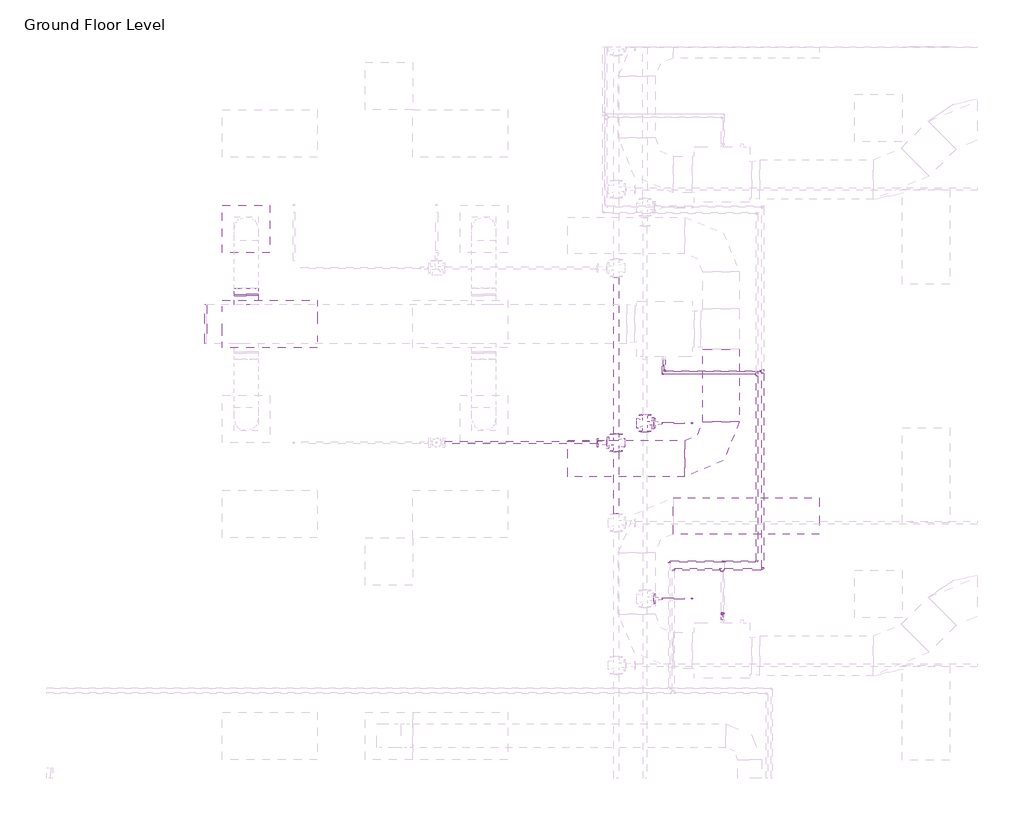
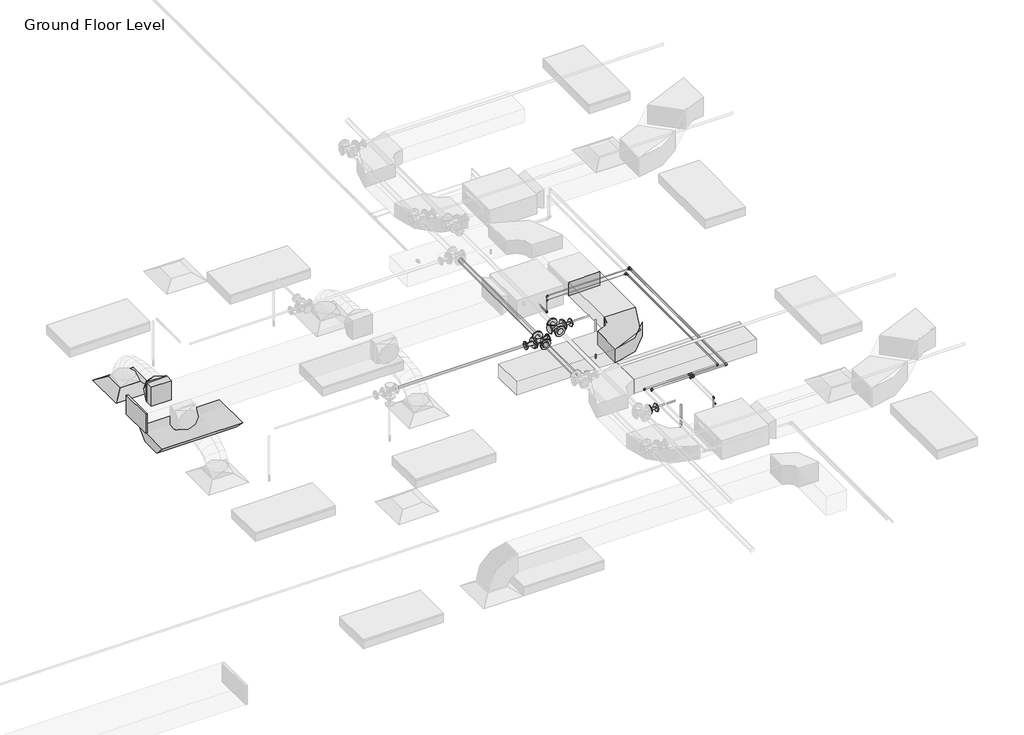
# One storey, part 60 of 73: 25 pipe fittings, 22 pipe segments, 5 duct fittings, 4 duct segments, 2 fire suppression terminals, 1 air terminal, 1 light fixture.
"""IFC4 building model written with IfcOpenShell, lengths in millimetres."""

from ifc_helpers import new_model, si_unit, point, frame, frame_2d, origin, place, context, project, spatial, polyline, circle_curve, trimmed, segment, composite_curve, outline, extrude, transform, mapped, element, save
from components import m_return_diffuser_600_x_600_face_300_x_300_connection_ff221211, m_rectangular_elbow_radius_1_w_0fa52825, m_rectangular_endcap_standard_72d4d00d, m_rectangular_takeoff_standard_2be5eba1, m_rectangular_transition_angle_45_degree_27e6000f, m_rectangular_to_round_transition_angle_45_degree_641efff0, m_sprinkler_pendent_15_mm_pendent_06fcbd8e, m_emergency_recessed_lighting_fixture_600x1200_277_5b10b25d, m_elbow_generic_standard_a088f956, m_elbow_generic_standard_2a704253, m_elbow_generic_standard_73005802, m_elbow_generic_standard_bb5ffebe, m_reducer_flanged_cs_class_150_standard_83138b42, m_reducer_flanged_cs_class_150_standard_5e9b2cee, m_tee_generic_standard_cdc1cff5, m_tee_generic_standard_bbfc025c, m_tee_round_base_flanged_cs_class_150_standard_dd767e04, m_tee_round_base_flanged_cs_class_150_standard_ab36f383, m_transition_generic_standard_e9aec4dd, m_transition_generic_standard_c2658a33

model = new_model("IFC4")

# Units and contexts
model_context = context("Model", 3, world=origin())
ifc_project = project(units=[si_unit("LENGTHUNIT", "METRE", prefix="MILLI")], contexts=[model_context])

# Site, building, storey
site = spatial("IfcSite", under=ifc_project)
building = spatial("IfcBuilding", under=site)
storey = spatial("IfcBuildingStorey", under=building, Name="Ground Floor Level", Elevation=900.0)

# Air terminal
placement = place(None, origin())
m_return_diffuser_600_x_600_face_300_x_300_connection_shape = m_return_diffuser_600_x_600_face_300_x_300_connection_ff221211(model_context)
element("IfcAirTerminal", 1, ObjectType="M_Supply Diffuser : 600 x 600 Face 300 x 300 Connection", at=placement, inside=storey, context=model_context, shape_type="MappedRepresentation", body=[
    mapped(m_return_diffuser_600_x_600_face_300_x_300_connection_shape, transform((962.7672395, 5335.2153534, 3650.0), x_axis=(1.0, 0.0, 0.0), y_axis=(0.0, 1.0, 0.0), z_axis=(0.0, 0.0, 1.0))),
])

# Duct fittings
m_rectangular_elbow_radius_1_w_shape = m_rectangular_elbow_radius_1_w_0fa52825(model_context)
element("IfcDuctFitting", 2, ObjectType="M_Rectangular Elbow - Radius : 1 W", at=placement, inside=storey, context=model_context, shape_type="MappedRepresentation", body=[
    mapped(m_rectangular_elbow_radius_1_w_shape, transform((6958.8139492, 2435.5824167, 4075.2875), x_axis=(1.0, 0.0, 0.0), y_axis=(0.0, 1.0, 0.0), z_axis=(0.0, 0.0, 1.0))),
])
m_rectangular_endcap_standard_shape = m_rectangular_endcap_standard_72d4d00d(model_context)
element("IfcDuctFitting", 3, ObjectType="M_Rectangular Endcap : Standard", at=placement, inside=storey, context=model_context, shape_type="MappedRepresentation", body=[
    mapped(m_rectangular_endcap_standard_shape, transform((468.0139492, 4135.0199167, 4099.9875), x_axis=(-0.9999999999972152, 0.0, -2.3600398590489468e-06), y_axis=(0.0, -1.0000000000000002, 0.0), z_axis=(-2.3600398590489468e-06, 0.0, 0.9999999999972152))),
])
m_rectangular_takeoff_standard_shape = m_rectangular_takeoff_standard_2be5eba1(model_context)
element("IfcDuctFitting", 4, ObjectType="M_Rectangular Takeoff : Standard", at=placement, inside=storey, context=model_context, shape_type="MappedRepresentation", body=[
    mapped(m_rectangular_takeoff_standard_shape, transform((962.7672395, 4385.0199167, 4099.9886676), x_axis=(0.0, 1.0, 0.0), y_axis=(1.0, 0.0, 0.0), z_axis=(0.0, 0.0, -1.0))),
])
m_rectangular_transition_angle_45_degree_shape = m_rectangular_transition_angle_45_degree_27e6000f(model_context)
element("IfcDuctFitting", 5, ObjectType="M_Rectangular Transition - Angle : 45 Degree", at=placement, inside=storey, context=model_context, shape_type="MappedRepresentation", body=[
    mapped(m_rectangular_transition_angle_45_degree_shape, transform((6958.8139492, 3815.5824167, 4075.2875), x_axis=(0.0, -1.0, 0.0), y_axis=(1.0, 0.0, 0.0), z_axis=(0.0, 0.0, 1.0))),
])
m_rectangular_to_round_transition_angle_45_degree_shape = m_rectangular_to_round_transition_angle_45_degree_641efff0(model_context)
element("IfcDuctFitting", 6, ObjectType="M_Rectangular to Round Transition - Angle : 45 Degree", at=placement, inside=storey, context=model_context, shape_type="MappedRepresentation", body=[
    mapped(m_rectangular_to_round_transition_angle_45_degree_shape, transform((962.7672395, 4507.8680897, 4099.9886676), x_axis=(0.0, 1.0, 0.0), y_axis=(-1.0, 0.0, 0.0), z_axis=(0.0, 0.0, 1.0))),
])

# Duct segments
element("IfcDuctSegment", 7, ObjectType="Radius Elbows / Taps", at=placement, inside=storey, context=model_context, shape_type="SweptSolid", body=[
    extrude(outline(polyline([(6355.2889492, 1478.7408949), (6355.2889492, 1940.6158949), (8193.4139492, 1940.6158949), (8193.4139492, 1478.7408949), (6355.2889492, 1478.7408949)])), frame((0.0, 0.0, 3968.1432729), z_axis=(0.0, 0.0, 1.0), x_axis=(1.0, 0.0, 0.0)), (0.0, 0.0, 1.0), 214.3),
])
element("IfcDuctSegment", 8, ObjectType="Radius Elbows / Taps", at=placement, inside=storey, context=model_context, shape_type="SweptSolid", body=[
    extrude(outline(polyline([(6727.8139492, 3815.2202847), (7189.8139492, 3815.2202847), (7189.8139492, 2897.5824167), (6727.8139492, 2897.5824167), (6727.8139492, 3815.2202847)])), frame((0.0, 0.0, 3968.2875), z_axis=(0.0, 0.0, 1.0), x_axis=(1.0, 0.0, 0.0)), (0.0, 0.0, 1.0), 214.0),
])
element("IfcDuctSegment", 9, ObjectType="Radius Elbows / Taps", at=placement, inside=storey, context=model_context, shape_type="SweptSolid", body=[
    extrude(outline(polyline([(6496.8139492, 2666.5824167), (6496.8139492, 2204.5824167), (5018.8139492, 2204.5824167), (5018.8139492, 2666.5824167), (6496.8139492, 2666.5824167)])), frame((0.0, 0.0, 3968.2875), z_axis=(0.0, 0.0, 1.0), x_axis=(1.0, 0.0, 0.0)), (0.0, 0.0, 1.0), 214.0),
])
element("IfcDuctSegment", 10, ObjectType="Radius Elbows / Taps", at=placement, inside=storey, context=model_context, shape_type="SweptSolid", body=[
    extrude(outline(polyline([(1112.7672395, 4486.6199167), (812.7672395, 4486.6199167), (812.7672395, 4507.8680897), (1112.7672395, 4507.8680897), (1112.7672395, 4486.6199167)])), frame((0.0, 0.0, 3949.9886676), z_axis=(0.0, 0.0, 1.0), x_axis=(1.0, 0.0, 0.0)), (0.0, 0.0, 1.0), 300.0),
])

# Fire suppression terminals
m_sprinkler_pendent_15_mm_pendent_shape = m_sprinkler_pendent_15_mm_pendent_06fcbd8e(model_context)
element("IfcFireSuppressionTerminal", 11, ObjectType="M_Sprinkler - Pendent : 15 mm Pendent", at=placement, inside=storey, context=model_context, shape_type="MappedRepresentation", body=[
    mapped(m_sprinkler_pendent_15_mm_pendent_shape, transform((6592.5481019, 2881.5134565, 3650.0), x_axis=(1.0, 0.0, 0.0), y_axis=(0.0, 1.0, 0.0), z_axis=(0.0, 0.0, 1.0))),
])
element("IfcFireSuppressionTerminal", 12, ObjectType="M_Sprinkler - Pendent : 15 mm Pendent", at=placement, inside=storey, context=model_context, shape_type="MappedRepresentation", body=[
    mapped(m_sprinkler_pendent_15_mm_pendent_shape, transform((6592.5481019, 666.6492065, 3650.0), x_axis=(1.0, 0.0, 0.0), y_axis=(0.0, 1.0, 0.0), z_axis=(0.0, 0.0, 1.0))),
])

# Light fixture
m_emergency_recessed_lighting_fixture_600x1200_277_shape = m_emergency_recessed_lighting_fixture_600x1200_277_5b10b25d(model_context)
element("IfcLightFixture", 13, ObjectType="M_Emergency Recessed Lighting Fixture : 600x1200 - 277", at=placement, inside=storey, context=model_context, shape_type="MappedRepresentation", body=[
    mapped(m_emergency_recessed_lighting_fixture_600x1200_277_shape, transform((662.7672395, 4435.2153534, 3650.0), x_axis=(1.0, 0.0, 0.0), y_axis=(0.0, 1.0, 0.0), z_axis=(0.0, 0.0, 1.0))),
])

# Pipe fittings
m_elbow_generic_standard_shape = m_elbow_generic_standard_a088f956(model_context)
element("IfcPipeFitting", 14, ObjectType="M_Elbow - Generic : Standard", at=placement, inside=storey, context=model_context, shape_type="MappedRepresentation", body=[
    mapped(m_elbow_generic_standard_shape, transform((6243.4139492, 3539.4875998, 4034.0875), x_axis=(0.0, -1.0, 0.0), y_axis=(0.0, 0.0, 1.0), z_axis=(-1.0, 0.0, 0.0))),
])
element("IfcPipeFitting", 15, ObjectType="M_Elbow - Generic : Standard", at=placement, inside=storey, context=model_context, shape_type="MappedRepresentation", body=[
    mapped(m_elbow_generic_standard_shape, transform((6243.4139492, 3539.4875998, 4300.0), x_axis=(0.0, 0.0, 1.0), y_axis=(1.0, 0.0, 0.0), z_axis=(0.0, 1.0, 0.0))),
])
element("IfcPipeFitting", 16, ObjectType="M_Elbow - Generic : Standard", at=placement, inside=storey, context=model_context, shape_type="MappedRepresentation", body=[
    mapped(m_elbow_generic_standard_shape, transform((6968.8139492, 477.4658847, 4034.0932729), x_axis=(0.0, 1.0, 0.0), y_axis=(0.0, 0.0, 1.0), z_axis=(1.0, 0.0, 0.0))),
])
element("IfcPipeFitting", 17, ObjectType="M_Elbow - Generic : Standard", at=placement, inside=storey, context=model_context, shape_type="MappedRepresentation", body=[
    mapped(m_elbow_generic_standard_shape, transform((6968.8139492, 477.4658847, 4300.0), x_axis=(0.0, 0.0, 1.0), y_axis=(0.0, 1.0, 0.0), z_axis=(-1.0, 0.0, 0.0))),
])
m_elbow_generic_standard_2_shape = m_elbow_generic_standard_2a704253(model_context)
element("IfcPipeFitting", 18, ObjectType="M_Elbow - Generic : Standard", at=placement, inside=storey, context=model_context, shape_type="MappedRepresentation", body=[
    mapped(m_elbow_generic_standard_2_shape, transform((6218.4139492, 3499.6030827, 4084.8875), x_axis=(0.0, -1.0, 0.0), y_axis=(0.0, 0.0, 1.0), z_axis=(-1.0, 0.0, 0.0))),
])
element("IfcPipeFitting", 19, ObjectType="M_Elbow - Generic : Standard", at=placement, inside=storey, context=model_context, shape_type="MappedRepresentation", body=[
    mapped(m_elbow_generic_standard_2_shape, transform((6218.4139492, 3499.6030827, 4265.0), x_axis=(0.0, 0.0, 1.0), y_axis=(1.0, 0.0, 0.0), z_axis=(0.0, 1.0, 0.0))),
])
element("IfcPipeFitting", 20, ObjectType="M_Elbow - Generic : Standard", at=placement, inside=storey, context=model_context, shape_type="MappedRepresentation", body=[
    mapped(m_elbow_generic_standard_2_shape, transform((6993.8139492, 474.3157767, 4200.0), x_axis=(0.0, 0.0, 1.0), y_axis=(0.0, 1.0, 0.0), z_axis=(-1.0, 0.0, 0.0))),
])
element("IfcPipeFitting", 21, ObjectType="M_Elbow - Generic : Standard", at=placement, inside=storey, context=model_context, shape_type="MappedRepresentation", body=[
    mapped(m_elbow_generic_standard_2_shape, transform((6993.8139492, 1134.0185138, 4200.0), x_axis=(0.0, 0.0, -1.0), y_axis=(0.0, -1.0, 0.0), z_axis=(-1.0, 0.0, 0.0))),
])
m_elbow_generic_standard_3_shape = m_elbow_generic_standard_73005802(model_context)
element("IfcPipeFitting", 22, ObjectType="M_Elbow - Generic : Standard", at=placement, inside=storey, context=model_context, shape_type="MappedRepresentation", body=[
    mapped(m_elbow_generic_standard_3_shape, transform((6355.3210494, 1036.0098545, 4300.0), x_axis=(-1.0, 0.0, 0.0), y_axis=(0.0, -1.0, 0.0), z_axis=(0.0, 0.0, 1.0))),
])
element("IfcPipeFitting", 23, ObjectType="M_Elbow - Generic : Standard", at=placement, inside=storey, context=model_context, shape_type="MappedRepresentation", body=[
    mapped(m_elbow_generic_standard_3_shape, transform((7485.0672395, 1036.0098545, 4300.0), x_axis=(1.0, 0.0, 0.0), y_axis=(0.0, 1.0, 0.0), z_axis=(0.0, 0.0, 1.0))),
])
m_elbow_generic_standard_4_shape = m_elbow_generic_standard_bb5ffebe(model_context)
element("IfcPipeFitting", 24, ObjectType="M_Elbow - Generic : Standard", at=placement, inside=storey, context=model_context, shape_type="MappedRepresentation", body=[
    mapped(m_elbow_generic_standard_4_shape, transform((6302.4595152, 1134.0185138, 4265.0), x_axis=(-1.0, 0.0, 0.0), y_axis=(0.0, -1.0, 0.0), z_axis=(0.0, 0.0, 1.0))),
])
element("IfcPipeFitting", 25, ObjectType="M_Elbow - Generic : Standard", at=placement, inside=storey, context=model_context, shape_type="MappedRepresentation", body=[
    mapped(m_elbow_generic_standard_4_shape, transform((7412.2057053, 1134.0185138, 4265.0), x_axis=(1.0, 0.0, 0.0), y_axis=(0.0, 1.0, 0.0), z_axis=(0.0, 0.0, 1.0))),
])
m_reducer_flanged_cs_class_150_standard_shape = m_reducer_flanged_cs_class_150_standard_83138b42(model_context)
element("IfcPipeFitting", 26, ObjectType="M_Reducer - Flanged - CS - Class 150 : Standard", at=placement, inside=storey, context=model_context, shape_type="MappedRepresentation", body=[
    mapped(m_reducer_flanged_cs_class_150_standard_shape, transform((6109.3164057, 2881.5134565, 4291.2754753), x_axis=(1.0, 0.0, 0.0), y_axis=(0.0, 0.0, -1.0), z_axis=(0.0, 1.0, 0.0))),
])
element("IfcPipeFitting", 27, ObjectType="M_Reducer - Flanged - CS - Class 150 : Standard", at=placement, inside=storey, context=model_context, shape_type="MappedRepresentation", body=[
    mapped(m_reducer_flanged_cs_class_150_standard_shape, transform((6109.3164057, 666.6492065, 4291.2754753), x_axis=(1.0, 0.0, 0.0), y_axis=(0.0, 0.0, -1.0), z_axis=(0.0, 1.0, 0.0))),
])
m_reducer_flanged_cs_class_150_standard_2_shape = m_reducer_flanged_cs_class_150_standard_5e9b2cee(model_context)
element("IfcPipeFitting", 28, ObjectType="M_Reducer - Flanged - CS - Class 150 : Standard", at=placement, inside=storey, context=model_context, shape_type="MappedRepresentation", body=[
    mapped(m_reducer_flanged_cs_class_150_standard_2_shape, transform((5521.869498, 2635.2153534, 4360.0), x_axis=(-1.0, 0.0, 0.0), y_axis=(0.0, 0.0, -1.0), z_axis=(0.0, -1.0, 0.0))),
])
m_tee_generic_standard_shape = m_tee_generic_standard_cdc1cff5(model_context)
element("IfcPipeFitting", 29, ObjectType="M_Tee - Generic : Standard", at=placement, inside=storey, context=model_context, shape_type="MappedRepresentation", body=[
    mapped(m_tee_generic_standard_shape, transform((7412.2057053, 3499.6030827, 4265.0), x_axis=(0.0, 1.0, 0.0), y_axis=(1.0, 0.0, 0.0), z_axis=(0.0, 0.0, -1.0))),
])
element("IfcPipeFitting", 30, ObjectType="M_Tee - Generic : Standard", at=placement, inside=storey, context=model_context, shape_type="MappedRepresentation", body=[
    mapped(m_tee_generic_standard_shape, transform((6993.8139492, 1134.0185138, 4265.0), x_axis=(1.0, 0.0, 0.0), y_axis=(0.0, 0.0, 1.0), z_axis=(0.0, -1.0, 0.0))),
])
m_tee_generic_standard_2_shape = m_tee_generic_standard_bbfc025c(model_context)
element("IfcPipeFitting", 31, ObjectType="M_Tee - Generic : Standard", at=placement, inside=storey, context=model_context, shape_type="MappedRepresentation", body=[
    mapped(m_tee_generic_standard_2_shape, transform((7485.0672395, 3539.4875998, 4300.0), x_axis=(0.0, 1.0, 0.0), y_axis=(1.0, 0.0, 0.0), z_axis=(0.0, 0.0, -1.0))),
])
element("IfcPipeFitting", 32, ObjectType="M_Tee - Generic : Standard", at=placement, inside=storey, context=model_context, shape_type="MappedRepresentation", body=[
    mapped(m_tee_generic_standard_2_shape, transform((6968.8139492, 1036.0098545, 4300.0), x_axis=(1.0, 0.0, 0.0), y_axis=(0.0, 1.0, 0.0), z_axis=(0.0, 0.0, 1.0))),
])
m_tee_round_base_flanged_cs_class_150_standard_shape = m_tee_round_base_flanged_cs_class_150_standard_dd767e04(model_context)
element("IfcPipeFitting", 33, ObjectType="M_Tee Round Base - Flanged - CS - Class 150 : Standard", at=placement, inside=storey, context=model_context, shape_type="MappedRepresentation", body=[
    mapped(m_tee_round_base_flanged_cs_class_150_standard_shape, transform((5635.869498, 2635.2153534, 4360.0), x_axis=(0.0, 1.0, 0.0), y_axis=(1.0, 0.0, 0.0), z_axis=(0.0, 0.0, -1.0))),
])
m_tee_round_base_flanged_cs_class_150_standard_2_shape = m_tee_round_base_flanged_cs_class_150_standard_ab36f383(model_context)
element("IfcPipeFitting", 34, ObjectType="M_Tee Round Base - Flanged - CS - Class 150 : Standard", at=placement, inside=storey, context=model_context, shape_type="MappedRepresentation", body=[
    mapped(m_tee_round_base_flanged_cs_class_150_standard_2_shape, transform((5997.057812, 2881.5134565, 4291.0943441), x_axis=(0.0, 1.0, 0.0), y_axis=(-1.0, 0.0, 0.0), z_axis=(0.0, 0.0, 1.0))),
])
m_transition_generic_standard_shape = m_transition_generic_standard_e9aec4dd(model_context)
element("IfcPipeFitting", 35, ObjectType="M_Transition - Generic : Standard", at=placement, inside=storey, context=model_context, shape_type="MappedRepresentation", body=[
    mapped(m_transition_generic_standard_shape, transform((7459.6672395, 3539.4875998, 4300.0), x_axis=(-1.0, 0.0, 0.0), y_axis=(0.0, -1.0, 0.0), z_axis=(0.0, 0.0, 1.0))),
])
element("IfcPipeFitting", 36, ObjectType="M_Transition - Generic : Standard", at=placement, inside=storey, context=model_context, shape_type="MappedRepresentation", body=[
    mapped(m_transition_generic_standard_shape, transform((6968.8139492, 1010.6098545, 4300.0), x_axis=(0.0, -1.0, 0.0), y_axis=(1.0, 0.0, 0.0), z_axis=(0.0, 0.0, 1.0))),
])
m_transition_generic_standard_2_shape = m_transition_generic_standard_c2658a33(model_context)
element("IfcPipeFitting", 37, ObjectType="M_Transition - Generic : Standard", at=placement, inside=storey, context=model_context, shape_type="MappedRepresentation", body=[
    mapped(m_transition_generic_standard_2_shape, transform((7389.9807053, 3499.6030827, 4265.0), x_axis=(-1.0, 0.0, 0.0), y_axis=(0.0, -1.0, 0.0), z_axis=(0.0, 0.0, 1.0))),
])
element("IfcPipeFitting", 38, ObjectType="M_Transition - Generic : Standard", at=placement, inside=storey, context=model_context, shape_type="MappedRepresentation", body=[
    mapped(m_transition_generic_standard_2_shape, transform((6993.8139492, 1134.0185138, 4242.775), x_axis=(0.0, 0.0, -1.0), y_axis=(1.0, 0.0, 0.0), z_axis=(0.0, -1.0, 0.0))),
])

# Pipe segments
element("IfcPipeSegment", 39, ObjectType="Copper", at=placement, inside=storey, context=model_context, shape_type="SweptSolid", body=[
    extrude(outline(composite_curve([segment(trimmed(circle_curve(frame_2d((3499.6030827, 4265.0)), 3.35), [point((3496.2530827, 4265.0))], [point((3499.6030827, 4268.35))], False, "CARTESIAN"), True, "CONTINUOUS"), segment(trimmed(circle_curve(frame_2d((3499.6030827, 4265.0)), 3.35), [point((3499.6030827, 4268.35))], [point((3502.9530827, 4265.0))], False, "CARTESIAN"), True, "CONTINUOUS"), segment(trimmed(circle_curve(frame_2d((3499.6030827, 4265.0)), 3.35), [point((3502.9530827, 4265.0))], [point((3499.6030827, 4261.65))], False, "CARTESIAN"), True, "CONTINUOUS"), segment(trimmed(circle_curve(frame_2d((3499.6030827, 4265.0)), 3.35), [point((3499.6030827, 4261.65))], [point((3496.2530827, 4265.0))], False, "CARTESIAN"), True, "CONTINUOUS")], self_intersect=False)), frame((6229.5514492, 0.0, 0.0), z_axis=(1.0, 0.0, 0.0), x_axis=(0.0, 1.0, 0.0)), (0.0, 0.0, 1.0), 1155.666756),
])
element("IfcPipeSegment", 40, ObjectType="Copper", at=placement, inside=storey, context=model_context, shape_type="SweptSolid", body=[
    extrude(outline(composite_curve([segment(trimmed(circle_curve(frame_2d((3539.4875998, 4300.0)), 6.5), [point((3532.9875998, 4300.0))], [point((3539.4875998, 4306.5))], False, "CARTESIAN"), True, "CONTINUOUS"), segment(trimmed(circle_curve(frame_2d((3539.4875998, 4300.0)), 6.5), [point((3539.4875998, 4306.5))], [point((3545.9875998, 4300.0))], False, "CARTESIAN"), True, "CONTINUOUS"), segment(trimmed(circle_curve(frame_2d((3539.4875998, 4300.0)), 6.5), [point((3545.9875998, 4300.0))], [point((3539.4875998, 4293.5))], False, "CARTESIAN"), True, "CONTINUOUS"), segment(trimmed(circle_curve(frame_2d((3539.4875998, 4300.0)), 6.5), [point((3539.4875998, 4293.5))], [point((3532.9875998, 4300.0))], False, "CARTESIAN"), True, "CONTINUOUS")], self_intersect=False)), frame((6257.7014492, 0.0, 0.0), z_axis=(1.0, 0.0, 0.0), x_axis=(0.0, 1.0, 0.0)), (0.0, 0.0, 1.0), 1195.6157902),
])
element("IfcPipeSegment", 41, ObjectType="Copper", at=placement, inside=storey, context=model_context, shape_type="SweptSolid", body=[
    extrude(outline(composite_curve([segment(trimmed(circle_curve(frame_2d((4265.0, 7412.2057053)), 8.1), [point((4265.0, 7404.1057053))], [point((4256.9, 7412.2057053))], False, "CARTESIAN"), True, "CONTINUOUS"), segment(trimmed(circle_curve(frame_2d((4265.0, 7412.2057053)), 8.1), [point((4256.9, 7412.2057053))], [point((4265.0, 7420.3057053))], False, "CARTESIAN"), True, "CONTINUOUS"), segment(trimmed(circle_curve(frame_2d((4265.0, 7412.2057053)), 8.1), [point((4265.0, 7420.3057053))], [point((4273.1, 7412.2057053))], False, "CARTESIAN"), True, "CONTINUOUS"), segment(trimmed(circle_curve(frame_2d((4265.0, 7412.2057053)), 8.1), [point((4273.1, 7412.2057053))], [point((4265.0, 7404.1057053))], False, "CARTESIAN"), True, "CONTINUOUS")], self_intersect=False)), frame((0.0, 1149.8935138, 0.0), z_axis=(0.0, 1.0, 0.0), x_axis=(0.0, 0.0, 1.0)), (0.0, 0.0, 1.0), 2327.4845689),
])
element("IfcPipeSegment", 42, ObjectType="Copper", at=placement, inside=storey, context=model_context, shape_type="SweptSolid", body=[
    extrude(outline(composite_curve([segment(trimmed(circle_curve(frame_2d((4300.0, 7485.0672395)), 11.5), [point((4300.0, 7496.5672395))], [point((4311.5, 7485.0672395))], False, "CARTESIAN"), True, "CONTINUOUS"), segment(trimmed(circle_curve(frame_2d((4300.0, 7485.0672395)), 11.5), [point((4311.5, 7485.0672395))], [point((4300.0, 7473.5672395))], False, "CARTESIAN"), True, "CONTINUOUS"), segment(trimmed(circle_curve(frame_2d((4300.0, 7485.0672395)), 11.5), [point((4300.0, 7473.5672395))], [point((4288.5, 7485.0672395))], False, "CARTESIAN"), True, "CONTINUOUS"), segment(trimmed(circle_curve(frame_2d((4300.0, 7485.0672395)), 11.5), [point((4288.5, 7485.0672395))], [point((4300.0, 7496.5672395))], False, "CARTESIAN"), True, "CONTINUOUS")], self_intersect=False)), frame((0.0, 1055.0598545, 0.0), z_axis=(0.0, 1.0, 0.0), x_axis=(0.0, 0.0, 1.0)), (0.0, 0.0, 1.0), 2459.0277453),
])
element("IfcPipeSegment", 43, ObjectType="Copper", at=placement, inside=storey, context=model_context, shape_type="SweptSolid", body=[
    extrude(outline(composite_curve([segment(trimmed(circle_curve(frame_2d((4034.0875, 6243.4139492)), 6.5), [point((4034.0875, 6236.9139492))], [point((4027.5875, 6243.4139492))], False, "CARTESIAN"), True, "CONTINUOUS"), segment(trimmed(circle_curve(frame_2d((4034.0875, 6243.4139492)), 6.5), [point((4027.5875, 6243.4139492))], [point((4034.0875, 6249.9139492))], False, "CARTESIAN"), True, "CONTINUOUS"), segment(trimmed(circle_curve(frame_2d((4034.0875, 6243.4139492)), 6.5), [point((4034.0875, 6249.9139492))], [point((4040.5875, 6243.4139492))], False, "CARTESIAN"), True, "CONTINUOUS"), segment(trimmed(circle_curve(frame_2d((4034.0875, 6243.4139492)), 6.5), [point((4040.5875, 6243.4139492))], [point((4034.0875, 6236.9139492))], False, "CARTESIAN"), True, "CONTINUOUS")], self_intersect=False)), frame((0.0, 3553.7750998, 0.0), z_axis=(0.0, 1.0, 0.0), x_axis=(0.0, 0.0, 1.0)), (0.0, 0.0, 1.0), 129.6448169),
])
element("IfcPipeSegment", 44, ObjectType="Copper", at=placement, inside=storey, context=model_context, shape_type="SweptSolid", body=[
    extrude(outline(composite_curve([segment(trimmed(circle_curve(frame_2d((4084.8875, 6218.4139492)), 3.35), [point((4084.8875, 6215.0639492))], [point((4081.5375, 6218.4139492))], False, "CARTESIAN"), True, "CONTINUOUS"), segment(trimmed(circle_curve(frame_2d((4084.8875, 6218.4139492)), 3.35), [point((4081.5375, 6218.4139492))], [point((4084.8875, 6221.7639492))], False, "CARTESIAN"), True, "CONTINUOUS"), segment(trimmed(circle_curve(frame_2d((4084.8875, 6218.4139492)), 3.35), [point((4084.8875, 6221.7639492))], [point((4088.2375, 6218.4139492))], False, "CARTESIAN"), True, "CONTINUOUS"), segment(trimmed(circle_curve(frame_2d((4084.8875, 6218.4139492)), 3.35), [point((4088.2375, 6218.4139492))], [point((4084.8875, 6215.0639492))], False, "CARTESIAN"), True, "CONTINUOUS")], self_intersect=False)), frame((0.0, 3510.7405827, 0.0), z_axis=(0.0, 1.0, 0.0), x_axis=(0.0, 0.0, 1.0)), (0.0, 0.0, 1.0), 172.679334),
])
element("IfcPipeSegment", 45, ObjectType="Copper", at=placement, inside=storey, context=model_context, shape_type="SweptSolid", body=[
    extrude(outline(composite_curve([segment(trimmed(circle_curve(frame_2d((6218.4139492, 3499.6030827)), 3.35), [point((6215.0639492, 3499.6030827))], [point((6218.4139492, 3502.9530827))], False, "CARTESIAN"), True, "CONTINUOUS"), segment(trimmed(circle_curve(frame_2d((6218.4139492, 3499.6030827)), 3.35), [point((6218.4139492, 3502.9530827))], [point((6221.7639492, 3499.6030827))], False, "CARTESIAN"), True, "CONTINUOUS"), segment(trimmed(circle_curve(frame_2d((6218.4139492, 3499.6030827)), 3.35), [point((6221.7639492, 3499.6030827))], [point((6218.4139492, 3496.2530827))], False, "CARTESIAN"), True, "CONTINUOUS"), segment(trimmed(circle_curve(frame_2d((6218.4139492, 3499.6030827)), 3.35), [point((6218.4139492, 3496.2530827))], [point((6215.0639492, 3499.6030827))], False, "CARTESIAN"), True, "CONTINUOUS")], self_intersect=False)), frame((0.0, 0.0, 4096.025), z_axis=(0.0, 0.0, 1.0), x_axis=(1.0, 0.0, 0.0)), (0.0, 0.0, 1.0), 157.8375),
])
element("IfcPipeSegment", 46, ObjectType="Copper", at=placement, inside=storey, context=model_context, shape_type="SweptSolid", body=[
    extrude(outline(composite_curve([segment(trimmed(circle_curve(frame_2d((6243.4139492, 3539.4875998)), 6.5), [point((6236.9139492, 3539.4875998))], [point((6243.4139492, 3545.9875998))], False, "CARTESIAN"), True, "CONTINUOUS"), segment(trimmed(circle_curve(frame_2d((6243.4139492, 3539.4875998)), 6.5), [point((6243.4139492, 3545.9875998))], [point((6249.9139492, 3539.4875998))], False, "CARTESIAN"), True, "CONTINUOUS"), segment(trimmed(circle_curve(frame_2d((6243.4139492, 3539.4875998)), 6.5), [point((6249.9139492, 3539.4875998))], [point((6243.4139492, 3532.9875998))], False, "CARTESIAN"), True, "CONTINUOUS"), segment(trimmed(circle_curve(frame_2d((6243.4139492, 3539.4875998)), 6.5), [point((6243.4139492, 3532.9875998))], [point((6236.9139492, 3539.4875998))], False, "CARTESIAN"), True, "CONTINUOUS")], self_intersect=False)), frame((0.0, 0.0, 4048.375), z_axis=(0.0, 0.0, 1.0), x_axis=(1.0, 0.0, 0.0)), (0.0, 0.0, 1.0), 237.3375),
])
element("IfcPipeSegment", 47, ObjectType="Copper", at=placement, inside=storey, context=model_context, shape_type="SweptSolid", body=[
    extrude(outline(composite_curve([segment(trimmed(circle_curve(frame_2d((1134.0185138, 4265.0)), 8.1), [point((1142.1185138, 4265.0))], [point((1134.0185138, 4256.9))], False, "CARTESIAN"), True, "CONTINUOUS"), segment(trimmed(circle_curve(frame_2d((1134.0185138, 4265.0)), 8.1), [point((1134.0185138, 4256.9))], [point((1125.9185138, 4265.0))], False, "CARTESIAN"), True, "CONTINUOUS"), segment(trimmed(circle_curve(frame_2d((1134.0185138, 4265.0)), 8.1), [point((1125.9185138, 4265.0))], [point((1134.0185138, 4273.1))], False, "CARTESIAN"), True, "CONTINUOUS"), segment(trimmed(circle_curve(frame_2d((1134.0185138, 4265.0)), 8.1), [point((1134.0185138, 4273.1))], [point((1142.1185138, 4265.0))], False, "CARTESIAN"), True, "CONTINUOUS")], self_intersect=False)), frame((6318.3345152, 0.0, 0.0), z_axis=(1.0, 0.0, 0.0), x_axis=(0.0, 1.0, 0.0)), (0.0, 0.0, 1.0), 653.254434),
])
element("IfcPipeSegment", 48, ObjectType="Copper", at=placement, inside=storey, context=model_context, shape_type="SweptSolid", body=[
    extrude(outline(composite_curve([segment(trimmed(circle_curve(frame_2d((1036.0098545, 4300.0)), 11.5), [point((1047.5098545, 4300.0))], [point((1036.0098545, 4288.5))], False, "CARTESIAN"), True, "CONTINUOUS"), segment(trimmed(circle_curve(frame_2d((1036.0098545, 4300.0)), 11.5), [point((1036.0098545, 4288.5))], [point((1024.5098545, 4300.0))], False, "CARTESIAN"), True, "CONTINUOUS"), segment(trimmed(circle_curve(frame_2d((1036.0098545, 4300.0)), 11.5), [point((1024.5098545, 4300.0))], [point((1036.0098545, 4311.5))], False, "CARTESIAN"), True, "CONTINUOUS"), segment(trimmed(circle_curve(frame_2d((1036.0098545, 4300.0)), 11.5), [point((1036.0098545, 4311.5))], [point((1047.5098545, 4300.0))], False, "CARTESIAN"), True, "CONTINUOUS")], self_intersect=False)), frame((6374.3710494, 0.0, 0.0), z_axis=(1.0, 0.0, 0.0), x_axis=(0.0, 1.0, 0.0)), (0.0, 0.0, 1.0), 569.0428998),
])
element("IfcPipeSegment", 49, ObjectType="Copper", at=placement, inside=storey, context=model_context, shape_type="SweptSolid", body=[
    extrude(outline(composite_curve([segment(trimmed(circle_curve(frame_2d((4034.0932729, 6968.8139492)), 6.5), [point((4034.0932729, 6975.3139492))], [point((4040.5932729, 6968.8139492))], False, "CARTESIAN"), True, "CONTINUOUS"), segment(trimmed(circle_curve(frame_2d((4034.0932729, 6968.8139492)), 6.5), [point((4040.5932729, 6968.8139492))], [point((4034.0932729, 6962.3139492))], False, "CARTESIAN"), True, "CONTINUOUS"), segment(trimmed(circle_curve(frame_2d((4034.0932729, 6968.8139492)), 6.5), [point((4034.0932729, 6962.3139492))], [point((4027.5932729, 6968.8139492))], False, "CARTESIAN"), True, "CONTINUOUS"), segment(trimmed(circle_curve(frame_2d((4034.0932729, 6968.8139492)), 6.5), [point((4027.5932729, 6968.8139492))], [point((4034.0932729, 6975.3139492))], False, "CARTESIAN"), True, "CONTINUOUS")], self_intersect=False)), frame((0.0, 397.7779527, 0.0), z_axis=(0.0, 1.0, 0.0), x_axis=(0.0, 0.0, 1.0)), (0.0, 0.0, 1.0), 65.4004321),
])
element("IfcPipeSegment", 50, ObjectType="Copper", at=placement, inside=storey, context=model_context, shape_type="SweptSolid", body=[
    extrude(outline(composite_curve([segment(trimmed(circle_curve(frame_2d((6968.8139492, 477.4658847)), 6.5), [point((6962.3139492, 477.4658847))], [point((6968.8139492, 483.9658847))], False, "CARTESIAN"), True, "CONTINUOUS"), segment(trimmed(circle_curve(frame_2d((6968.8139492, 477.4658847)), 6.5), [point((6968.8139492, 483.9658847))], [point((6975.3139492, 477.4658847))], False, "CARTESIAN"), True, "CONTINUOUS"), segment(trimmed(circle_curve(frame_2d((6968.8139492, 477.4658847)), 6.5), [point((6975.3139492, 477.4658847))], [point((6968.8139492, 470.9658847))], False, "CARTESIAN"), True, "CONTINUOUS"), segment(trimmed(circle_curve(frame_2d((6968.8139492, 477.4658847)), 6.5), [point((6968.8139492, 470.9658847))], [point((6962.3139492, 477.4658847))], False, "CARTESIAN"), True, "CONTINUOUS")], self_intersect=False)), frame((0.0, 0.0, 4048.3807729), z_axis=(0.0, 0.0, 1.0), x_axis=(1.0, 0.0, 0.0)), (0.0, 0.0, 1.0), 237.3317271),
])
element("IfcPipeSegment", 51, ObjectType="Copper", at=placement, inside=storey, context=model_context, shape_type="SweptSolid", body=[
    extrude(outline(composite_curve([segment(trimmed(circle_curve(frame_2d((1036.0098545, 4300.0)), 11.5), [point((1047.5098545, 4300.0))], [point((1036.0098545, 4288.5))], False, "CARTESIAN"), True, "CONTINUOUS"), segment(trimmed(circle_curve(frame_2d((1036.0098545, 4300.0)), 11.5), [point((1036.0098545, 4288.5))], [point((1024.5098545, 4300.0))], False, "CARTESIAN"), True, "CONTINUOUS"), segment(trimmed(circle_curve(frame_2d((1036.0098545, 4300.0)), 11.5), [point((1024.5098545, 4300.0))], [point((1036.0098545, 4311.5))], False, "CARTESIAN"), True, "CONTINUOUS"), segment(trimmed(circle_curve(frame_2d((1036.0098545, 4300.0)), 11.5), [point((1036.0098545, 4311.5))], [point((1047.5098545, 4300.0))], False, "CARTESIAN"), True, "CONTINUOUS")], self_intersect=False)), frame((6994.2139492, 0.0, 0.0), z_axis=(1.0, 0.0, 0.0), x_axis=(0.0, 1.0, 0.0)), (0.0, 0.0, 1.0), 471.8032902),
])
element("IfcPipeSegment", 52, ObjectType="Copper", at=placement, inside=storey, context=model_context, shape_type="SweptSolid", body=[
    extrude(outline(composite_curve([segment(trimmed(circle_curve(frame_2d((6993.8139492, 1134.0185138)), 3.35), [point((6997.1639492, 1134.0185138))], [point((6993.8139492, 1130.6685138))], False, "CARTESIAN"), True, "CONTINUOUS"), segment(trimmed(circle_curve(frame_2d((6993.8139492, 1134.0185138)), 3.35), [point((6993.8139492, 1130.6685138))], [point((6990.4639492, 1134.0185138))], False, "CARTESIAN"), True, "CONTINUOUS"), segment(trimmed(circle_curve(frame_2d((6993.8139492, 1134.0185138)), 3.35), [point((6990.4639492, 1134.0185138))], [point((6993.8139492, 1137.3685138))], False, "CARTESIAN"), True, "CONTINUOUS"), segment(trimmed(circle_curve(frame_2d((6993.8139492, 1134.0185138)), 3.35), [point((6993.8139492, 1137.3685138))], [point((6997.1639492, 1134.0185138))], False, "CARTESIAN"), True, "CONTINUOUS")], self_intersect=False)), frame((0.0, 0.0, 4211.1375), z_axis=(0.0, 0.0, 1.0), x_axis=(1.0, 0.0, 0.0)), (0.0, 0.0, 1.0), 26.875),
])
element("IfcPipeSegment", 53, ObjectType="Copper", at=placement, inside=storey, context=model_context, shape_type="SweptSolid", body=[
    extrude(outline(composite_curve([segment(trimmed(circle_curve(frame_2d((1134.0185138, 4265.0)), 8.1), [point((1142.1185138, 4265.0))], [point((1134.0185138, 4256.9))], False, "CARTESIAN"), True, "CONTINUOUS"), segment(trimmed(circle_curve(frame_2d((1134.0185138, 4265.0)), 8.1), [point((1134.0185138, 4256.9))], [point((1125.9185138, 4265.0))], False, "CARTESIAN"), True, "CONTINUOUS"), segment(trimmed(circle_curve(frame_2d((1134.0185138, 4265.0)), 8.1), [point((1125.9185138, 4265.0))], [point((1134.0185138, 4273.1))], False, "CARTESIAN"), True, "CONTINUOUS"), segment(trimmed(circle_curve(frame_2d((1134.0185138, 4265.0)), 8.1), [point((1134.0185138, 4273.1))], [point((1142.1185138, 4265.0))], False, "CARTESIAN"), True, "CONTINUOUS")], self_intersect=False)), frame((7016.0389492, 0.0, 0.0), z_axis=(1.0, 0.0, 0.0), x_axis=(0.0, 1.0, 0.0)), (0.0, 0.0, 1.0), 380.291756),
])
element("IfcPipeSegment", 54, ObjectType="Steel flanged", at=placement, inside=storey, context=model_context, shape_type="SweptSolid", body=[
    extrude(outline(composite_curve([segment(trimmed(circle_curve(frame_2d((6592.5481019, 2881.5134565)), 10.668), [point((6581.8801019, 2881.5134565))], [point((6592.5481019, 2892.1814565))], False, "CARTESIAN"), True, "CONTINUOUS"), segment(trimmed(circle_curve(frame_2d((6592.5481019, 2881.5134565)), 10.668), [point((6592.5481019, 2892.1814565))], [point((6603.2161019, 2881.5134565))], False, "CARTESIAN"), True, "CONTINUOUS"), segment(trimmed(circle_curve(frame_2d((6592.5481019, 2881.5134565)), 10.668), [point((6603.2161019, 2881.5134565))], [point((6592.5481019, 2870.8454565))], False, "CARTESIAN"), True, "CONTINUOUS"), segment(trimmed(circle_curve(frame_2d((6592.5481019, 2881.5134565)), 10.668), [point((6592.5481019, 2870.8454565))], [point((6581.8801019, 2881.5134565))], False, "CARTESIAN"), True, "CONTINUOUS")], self_intersect=False)), frame((0.0, 0.0, 3650.0), z_axis=(0.0, 0.0, 1.0), x_axis=(1.0, 0.0, 0.0)), (0.0, 0.0, 1.0), 548.2668816),
])
element("IfcPipeSegment", 55, ObjectType="Steel flanged", at=placement, inside=storey, context=model_context, shape_type="SweptSolid", body=[
    extrude(outline(composite_curve([segment(trimmed(circle_curve(frame_2d((2881.5134565, 4291.2754753)), 10.668), [point((2892.1814565, 4291.2754753))], [point((2881.5134565, 4280.6074753))], False, "CARTESIAN"), True, "CONTINUOUS"), segment(trimmed(circle_curve(frame_2d((2881.5134565, 4291.2754753)), 10.668), [point((2881.5134565, 4280.6074753))], [point((2870.8454565, 4291.2754753))], False, "CARTESIAN"), True, "CONTINUOUS"), segment(trimmed(circle_curve(frame_2d((2881.5134565, 4291.2754753)), 10.668), [point((2870.8454565, 4291.2754753))], [point((2881.5134565, 4301.9434753))], False, "CARTESIAN"), True, "CONTINUOUS"), segment(trimmed(circle_curve(frame_2d((2881.5134565, 4291.2754753)), 10.668), [point((2881.5134565, 4301.9434753))], [point((2892.1814565, 4291.2754753))], False, "CARTESIAN"), True, "CONTINUOUS")], self_intersect=False)), frame((6223.3164057, 0.0, 0.0), z_axis=(1.0, 0.0, 0.0), x_axis=(0.0, 1.0, 0.0)), (0.0, 0.0, 1.0), 276.2231025),
])
element("IfcPipeSegment", 56, ObjectType="Steel flanged", at=placement, inside=storey, context=model_context, shape_type="SweptSolid", body=[
    extrude(outline(composite_curve([segment(trimmed(circle_curve(frame_2d((6592.5481019, 666.6492065)), 10.668), [point((6581.8801019, 666.6492065))], [point((6592.5481019, 677.3172065))], False, "CARTESIAN"), True, "CONTINUOUS"), segment(trimmed(circle_curve(frame_2d((6592.5481019, 666.6492065)), 10.668), [point((6592.5481019, 677.3172065))], [point((6603.2161019, 666.6492065))], False, "CARTESIAN"), True, "CONTINUOUS"), segment(trimmed(circle_curve(frame_2d((6592.5481019, 666.6492065)), 10.668), [point((6603.2161019, 666.6492065))], [point((6592.5481019, 655.9812065))], False, "CARTESIAN"), True, "CONTINUOUS"), segment(trimmed(circle_curve(frame_2d((6592.5481019, 666.6492065)), 10.668), [point((6592.5481019, 655.9812065))], [point((6581.8801019, 666.6492065))], False, "CARTESIAN"), True, "CONTINUOUS")], self_intersect=False)), frame((0.0, 0.0, 3650.0), z_axis=(0.0, 0.0, 1.0), x_axis=(1.0, 0.0, 0.0)), (0.0, 0.0, 1.0), 548.2668816),
])
element("IfcPipeSegment", 57, ObjectType="Steel flanged", at=placement, inside=storey, context=model_context, shape_type="SweptSolid", body=[
    extrude(outline(composite_curve([segment(trimmed(circle_curve(frame_2d((666.6492065, 4291.2754753)), 10.668), [point((677.3172065, 4291.2754753))], [point((666.6492065, 4280.6074753))], False, "CARTESIAN"), True, "CONTINUOUS"), segment(trimmed(circle_curve(frame_2d((666.6492065, 4291.2754753)), 10.668), [point((666.6492065, 4280.6074753))], [point((655.9812065, 4291.2754753))], False, "CARTESIAN"), True, "CONTINUOUS"), segment(trimmed(circle_curve(frame_2d((666.6492065, 4291.2754753)), 10.668), [point((655.9812065, 4291.2754753))], [point((666.6492065, 4301.9434753))], False, "CARTESIAN"), True, "CONTINUOUS"), segment(trimmed(circle_curve(frame_2d((666.6492065, 4291.2754753)), 10.668), [point((666.6492065, 4301.9434753))], [point((677.3172065, 4291.2754753))], False, "CARTESIAN"), True, "CONTINUOUS")], self_intersect=False)), frame((6223.3164057, 0.0, 0.0), z_axis=(1.0, 0.0, 0.0), x_axis=(0.0, 1.0, 0.0)), (0.0, 0.0, 1.0), 276.2231025),
])
element("IfcPipeSegment", 58, ObjectType="Steel flanged", at=placement, inside=storey, context=model_context, shape_type="SweptSolid", body=[
    extrude(outline(composite_curve([segment(trimmed(circle_curve(frame_2d((4360.0, 5635.869498)), 30.1625), [point((4360.0, 5605.706998))], [point((4329.8375, 5635.869498))], False, "CARTESIAN"), True, "CONTINUOUS"), segment(trimmed(circle_curve(frame_2d((4360.0, 5635.869498)), 30.1625), [point((4329.8375, 5635.869498))], [point((4360.0, 5666.031998))], False, "CARTESIAN"), True, "CONTINUOUS"), segment(trimmed(circle_curve(frame_2d((4360.0, 5635.869498)), 30.1625), [point((4360.0, 5666.031998))], [point((4390.1625, 5635.869498))], False, "CARTESIAN"), True, "CONTINUOUS"), segment(trimmed(circle_curve(frame_2d((4360.0, 5635.869498)), 30.1625), [point((4390.1625, 5635.869498))], [point((4360.0, 5605.706998))], False, "CARTESIAN"), True, "CONTINUOUS")], self_intersect=False)), frame((0.0, 1739.2153534, 0.0), z_axis=(0.0, 1.0, 0.0), x_axis=(0.0, 0.0, 1.0)), (0.0, 0.0, 1.0), 782.0),
])
element("IfcPipeSegment", 59, ObjectType="Steel flanged", at=placement, inside=storey, context=model_context, shape_type="SweptSolid", body=[
    extrude(outline(composite_curve([segment(trimmed(circle_curve(frame_2d((4360.0, 5635.869498)), 30.1625), [point((4360.0, 5605.706998))], [point((4329.8375, 5635.869498))], False, "CARTESIAN"), True, "CONTINUOUS"), segment(trimmed(circle_curve(frame_2d((4360.0, 5635.869498)), 30.1625), [point((4329.8375, 5635.869498))], [point((4360.0, 5666.031998))], False, "CARTESIAN"), True, "CONTINUOUS"), segment(trimmed(circle_curve(frame_2d((4360.0, 5635.869498)), 30.1625), [point((4360.0, 5666.031998))], [point((4390.1625, 5635.869498))], False, "CARTESIAN"), True, "CONTINUOUS"), segment(trimmed(circle_curve(frame_2d((4360.0, 5635.869498)), 30.1625), [point((4390.1625, 5635.869498))], [point((4360.0, 5605.706998))], False, "CARTESIAN"), True, "CONTINUOUS")], self_intersect=False)), frame((0.0, 2749.2153534, 0.0), z_axis=(0.0, 1.0, 0.0), x_axis=(0.0, 0.0, 1.0)), (0.0, 0.0, 1.0), 1976.6545378),
])
element("IfcPipeSegment", 60, ObjectType="Steel flanged", at=placement, inside=storey, context=model_context, shape_type="SweptSolid", body=[
    extrude(outline(composite_curve([segment(trimmed(circle_curve(frame_2d((2635.2153534, 4360.0)), 16.7005), [point((2618.5148534, 4360.0))], [point((2635.2153534, 4376.7005))], False, "CARTESIAN"), True, "CONTINUOUS"), segment(trimmed(circle_curve(frame_2d((2635.2153534, 4360.0)), 16.7005), [point((2635.2153534, 4376.7005))], [point((2651.9158534, 4360.0))], False, "CARTESIAN"), True, "CONTINUOUS"), segment(trimmed(circle_curve(frame_2d((2635.2153534, 4360.0)), 16.7005), [point((2651.9158534, 4360.0))], [point((2635.2153534, 4343.2995))], False, "CARTESIAN"), True, "CONTINUOUS"), segment(trimmed(circle_curve(frame_2d((2635.2153534, 4360.0)), 16.7005), [point((2635.2153534, 4343.2995))], [point((2618.5148534, 4360.0))], False, "CARTESIAN"), True, "CONTINUOUS")], self_intersect=False)), frame((3468.08585, 0.0, 0.0), z_axis=(1.0, 0.0, 0.0), x_axis=(0.0, 1.0, 0.0)), (0.0, 0.0, 1.0), 1926.783648),
])

save(model, "model.ifc")
